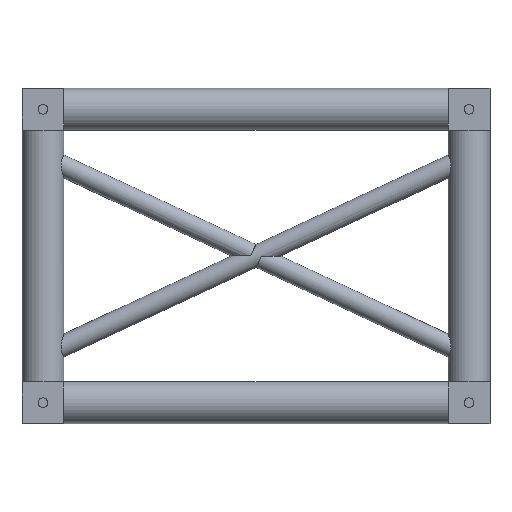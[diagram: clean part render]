
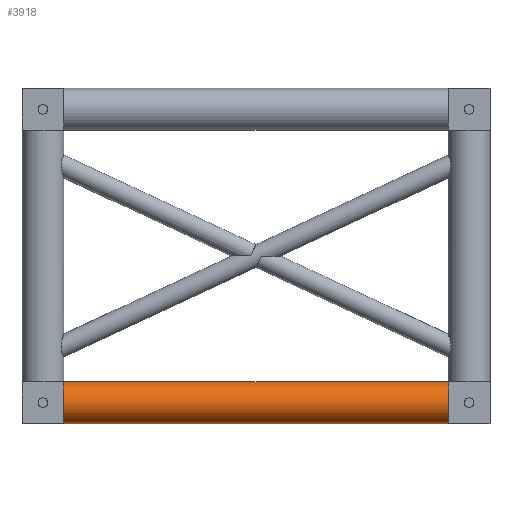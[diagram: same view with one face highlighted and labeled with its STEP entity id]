
A CAD part, left-side view. The second image highlights one B-rep face of the part: STEP entity #3918.
In plain terms, the highlighted cylindrical face has radius 30 mm (diameter 60 mm), a full revolution.
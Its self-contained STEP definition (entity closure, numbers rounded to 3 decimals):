
#518=FACE_BOUND('',#991,.T.);
#644=CYLINDRICAL_SURFACE('',#4191,30.);
#730=FACE_OUTER_BOUND('',#990,.T.);
#990=EDGE_LOOP('',(#2442,#2443,#2444,#2445));
#991=EDGE_LOOP('',(#2446,#2447,#2448,#2449));
#1373=CIRCLE('',#4192,30.);
#1374=CIRCLE('',#4193,30.);
#1375=CIRCLE('',#4194,30.);
#1376=CIRCLE('',#4195,30.);
#1377=CIRCLE('',#4196,30.);
#1378=CIRCLE('',#4197,30.);
#1379=CIRCLE('',#4198,30.);
#1380=CIRCLE('',#4199,30.);
#1573=VERTEX_POINT('',#6187);
#1574=VERTEX_POINT('',#6188);
#1575=VERTEX_POINT('',#6190);
#1576=VERTEX_POINT('',#6192);
#1577=VERTEX_POINT('',#6195);
#1578=VERTEX_POINT('',#6196);
#1579=VERTEX_POINT('',#6198);
#1580=VERTEX_POINT('',#6200);
#1907=EDGE_CURVE('',#1573,#1574,#1373,.T.);
#1908=EDGE_CURVE('',#1575,#1573,#1374,.T.);
#1909=EDGE_CURVE('',#1576,#1575,#1375,.T.);
#1910=EDGE_CURVE('',#1574,#1576,#1376,.T.);
#1911=EDGE_CURVE('',#1577,#1578,#1377,.T.);
#1912=EDGE_CURVE('',#1579,#1577,#1378,.T.);
#1913=EDGE_CURVE('',#1580,#1579,#1379,.T.);
#1914=EDGE_CURVE('',#1578,#1580,#1380,.T.);
#2442=ORIENTED_EDGE('',*,*,#1907,.F.);
#2443=ORIENTED_EDGE('',*,*,#1908,.F.);
#2444=ORIENTED_EDGE('',*,*,#1909,.F.);
#2445=ORIENTED_EDGE('',*,*,#1910,.F.);
#2446=ORIENTED_EDGE('',*,*,#1911,.F.);
#2447=ORIENTED_EDGE('',*,*,#1912,.F.);
#2448=ORIENTED_EDGE('',*,*,#1913,.F.);
#2449=ORIENTED_EDGE('',*,*,#1914,.F.);
#3918=ADVANCED_FACE('',(#730,#518),#644,.T.);
#4191=AXIS2_PLACEMENT_3D('',#6186,#4830,#4831);
#4192=AXIS2_PLACEMENT_3D('',#6189,#4832,#4833);
#4193=AXIS2_PLACEMENT_3D('',#6191,#4834,#4835);
#4194=AXIS2_PLACEMENT_3D('',#6193,#4836,#4837);
#4195=AXIS2_PLACEMENT_3D('',#6194,#4838,#4839);
#4196=AXIS2_PLACEMENT_3D('',#6197,#4840,#4841);
#4197=AXIS2_PLACEMENT_3D('',#6199,#4842,#4843);
#4198=AXIS2_PLACEMENT_3D('',#6201,#4844,#4845);
#4199=AXIS2_PLACEMENT_3D('',#6202,#4846,#4847);
#4830=DIRECTION('center_axis',(0.,-1.,0.));
#4831=DIRECTION('ref_axis',(-0.947,0.,0.321));
#4832=DIRECTION('center_axis',(0.,-1.,0.));
#4833=DIRECTION('ref_axis',(-0.947,0.,0.321));
#4834=DIRECTION('center_axis',(0.,-1.,0.));
#4835=DIRECTION('ref_axis',(-0.947,0.,0.321));
#4836=DIRECTION('center_axis',(0.,-1.,0.));
#4837=DIRECTION('ref_axis',(-0.947,0.,0.321));
#4838=DIRECTION('center_axis',(0.,-1.,0.));
#4839=DIRECTION('ref_axis',(-0.947,0.,0.321));
#4840=DIRECTION('center_axis',(0.,1.,0.));
#4841=DIRECTION('ref_axis',(-0.947,0.,0.321));
#4842=DIRECTION('center_axis',(0.,1.,0.));
#4843=DIRECTION('ref_axis',(-0.947,0.,0.321));
#4844=DIRECTION('center_axis',(0.,1.,0.));
#4845=DIRECTION('ref_axis',(-0.947,0.,0.321));
#4846=DIRECTION('center_axis',(0.,1.,0.));
#4847=DIRECTION('ref_axis',(-0.947,0.,0.321));
#6186=CARTESIAN_POINT('Origin',(0.,580.,-420.));
#6187=CARTESIAN_POINT('',(0.,30.,-450.));
#6188=CARTESIAN_POINT('',(30.,30.,-420.));
#6189=CARTESIAN_POINT('Origin',(0.,30.,-420.));
#6190=CARTESIAN_POINT('',(-30.,30.,-420.));
#6191=CARTESIAN_POINT('Origin',(0.,30.,-420.));
#6192=CARTESIAN_POINT('',(0.,30.,-390.));
#6193=CARTESIAN_POINT('Origin',(0.,30.,-420.));
#6194=CARTESIAN_POINT('Origin',(0.,30.,-420.));
#6195=CARTESIAN_POINT('',(30.,580.,-420.));
#6196=CARTESIAN_POINT('',(0.,580.,-450.));
#6197=CARTESIAN_POINT('Origin',(0.,580.,-420.));
#6198=CARTESIAN_POINT('',(0.,580.,-390.));
#6199=CARTESIAN_POINT('Origin',(0.,580.,-420.));
#6200=CARTESIAN_POINT('',(-30.,580.,-420.));
#6201=CARTESIAN_POINT('Origin',(0.,580.,-420.));
#6202=CARTESIAN_POINT('Origin',(0.,580.,-420.));
